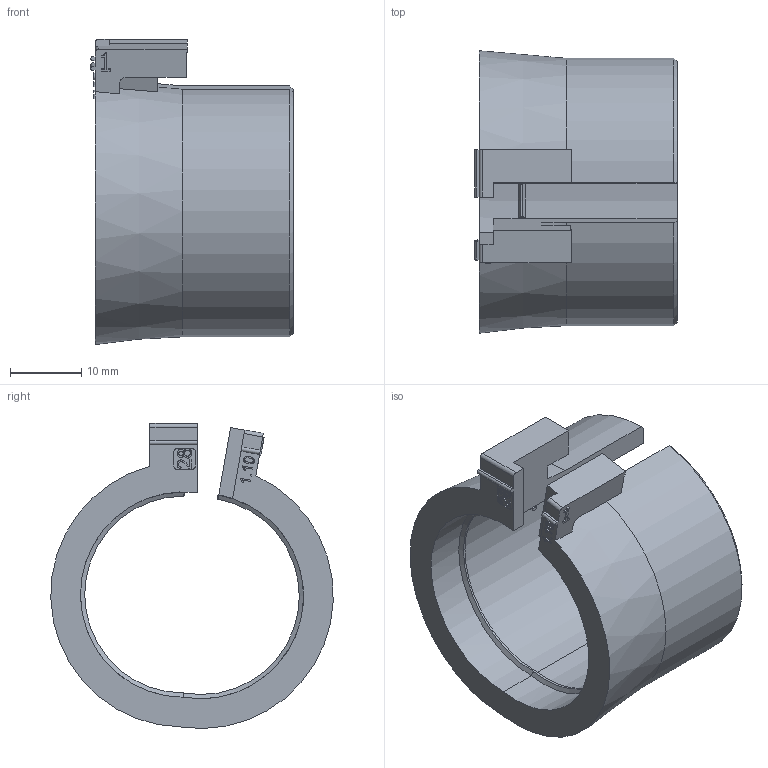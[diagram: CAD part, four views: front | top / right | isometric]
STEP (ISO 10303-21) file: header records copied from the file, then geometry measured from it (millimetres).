
FILE_DESCRIPTION(/* description */ (''),/* implementation_level */ '2;1');
FILE_NAME(/* name */ 'C:\SapWorkDir\Inventor\MP1\ConvertTempPath\87_12_121377_00_A_220530_KDT-X 28.stp',/* time_stamp */ '2022-05-31T15:31:09+02:00',/* author */ ('BAUER'),/* organization */ (''),/* preprocessor_version */ 'ST-DEVELOPER v16.13',/* originating_system */ 'Autodesk Inventor 2018',/* authorisation */ '');
FILE_SCHEMA (('AUTOMOTIVE_DESIGN { 1 0 10303 214 3 1 1 }'));
Length unit declared in the file: millimetre
Products named in the file (1): 121377
Bounding box: 28.4 x 39.62 x 42.79 mm (x, y, z)
Volume: 9964.1 mm3; surface area: 7112 mm2
Topology: 1 solids, 1 shells, 161 faces, 426 edges, 278 vertices
Faces by surface type: plane 90, bspline 39, cylinder 24, cone 8
Entity records: 5224 total; most frequent: CARTESIAN_POINT 1372, ORIENTED_EDGE 852, DIRECTION 645, EDGE_CURVE 426, LINE 283, VECTOR 283, VERTEX_POINT 278, AXIS2_PLACEMENT_3D 181
